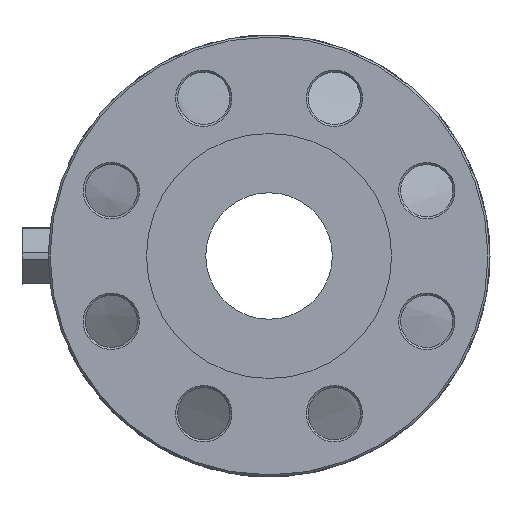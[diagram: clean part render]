
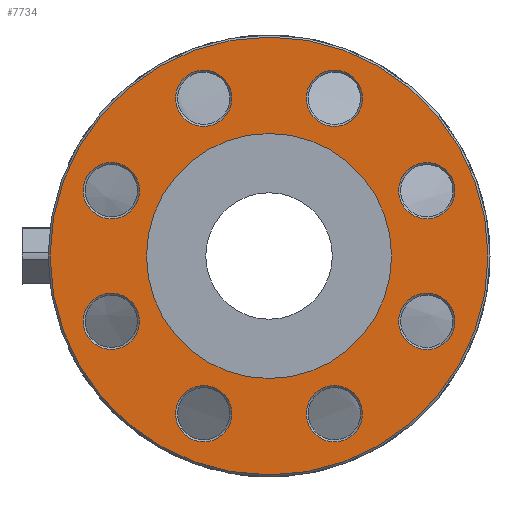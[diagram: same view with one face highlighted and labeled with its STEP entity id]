
A CAD part, left-side view. The second image highlights one B-rep face of the part: STEP entity #7734.
In plain terms, the highlighted planar face has unit normal (-1, 0, 0).
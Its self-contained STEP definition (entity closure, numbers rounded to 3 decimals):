
#7615=CARTESIAN_POINT('',(-114.,-42.428,-88.429));
#7616=VERTEX_POINT('',#7615);
#7617=CARTESIAN_POINT('',(-114.,-32.528,-78.53));
#7618=DIRECTION('',(-1.0,0.0,0.0));
#7619=DIRECTION('',(0.0,0.707,0.707));
#7620=AXIS2_PLACEMENT_3D('',#7617,#7618,#7619);
#7621=CIRCLE('',#7620,14.0);
#7622=EDGE_CURVE('',#7616,#7616,#7621,.T.);
#7627=CARTESIAN_POINT('',(-114.,-85.,0.0));
#7628=DIRECTION('',(-1.0,0.0,0.0));
#7629=DIRECTION('',(0.0,0.0,1.0));
#7630=AXIS2_PLACEMENT_3D('',#7627,#7628,#7629);
#7631=PLANE('',#7630);
#7632=CARTESIAN_POINT('',(-114.,-109.,0.0));
#7633=VERTEX_POINT('',#7632);
#7634=CARTESIAN_POINT('',(-114.,0.0,0.0));
#7635=DIRECTION('',(1.0,0.0,0.0));
#7636=DIRECTION('',(0.0,-1.0,0.0));
#7637=AXIS2_PLACEMENT_3D('',#7634,#7635,#7636);
#7638=CIRCLE('',#7637,109.);
#7639=EDGE_CURVE('',#7633,#7633,#7638,.T.);
#7640=ORIENTED_EDGE('',*,*,#7639,.F.);
#7641=EDGE_LOOP('',(#7640));
#7642=FACE_OUTER_BOUND('',#7641,.T.);
#7643=CARTESIAN_POINT('',(-114.,-92.53,-32.528));
#7644=VERTEX_POINT('',#7643);
#7645=CARTESIAN_POINT('',(-114.,-78.53,-32.528));
#7646=DIRECTION('',(-1.0,0.0,0.0));
#7647=DIRECTION('',(0.0,1.0,0.0));
#7648=AXIS2_PLACEMENT_3D('',#7645,#7646,#7647);
#7649=CIRCLE('',#7648,14.);
#7650=EDGE_CURVE('',#7644,#7644,#7649,.T.);
#7651=ORIENTED_EDGE('',*,*,#7650,.F.);
#7652=EDGE_LOOP('',(#7651));
#7653=FACE_BOUND('',#7652,.T.);
#7654=CARTESIAN_POINT('',(-114.,-32.528,92.53));
#7655=VERTEX_POINT('',#7654);
#7656=CARTESIAN_POINT('',(-114.,-32.528,78.53));
#7657=DIRECTION('',(-1.0,0.0,0.0));
#7658=DIRECTION('',(0.0,0.0,-1.0));
#7659=AXIS2_PLACEMENT_3D('',#7656,#7657,#7658);
#7660=CIRCLE('',#7659,14.);
#7661=EDGE_CURVE('',#7655,#7655,#7660,.T.);
#7662=ORIENTED_EDGE('',*,*,#7661,.F.);
#7663=EDGE_LOOP('',(#7662));
#7664=FACE_BOUND('',#7663,.T.);
#7665=CARTESIAN_POINT('',(-114.,92.53,32.528));
#7666=VERTEX_POINT('',#7665);
#7667=CARTESIAN_POINT('',(-114.,78.53,32.528));
#7668=DIRECTION('',(-1.0,0.0,0.0));
#7669=DIRECTION('',(0.0,-1.0,0.0));
#7670=AXIS2_PLACEMENT_3D('',#7667,#7668,#7669);
#7671=CIRCLE('',#7670,14.);
#7672=EDGE_CURVE('',#7666,#7666,#7671,.T.);
#7673=ORIENTED_EDGE('',*,*,#7672,.F.);
#7674=EDGE_LOOP('',(#7673));
#7675=FACE_BOUND('',#7674,.T.);
#7676=CARTESIAN_POINT('',(-114.,32.528,-92.53));
#7677=VERTEX_POINT('',#7676);
#7678=CARTESIAN_POINT('',(-114.,32.528,-78.53));
#7679=DIRECTION('',(-1.0,0.0,0.0));
#7680=DIRECTION('',(0.0,0.0,1.0));
#7681=AXIS2_PLACEMENT_3D('',#7678,#7679,#7680);
#7682=CIRCLE('',#7681,14.);
#7683=EDGE_CURVE('',#7677,#7677,#7682,.T.);
#7684=ORIENTED_EDGE('',*,*,#7683,.F.);
#7685=EDGE_LOOP('',(#7684));
#7686=FACE_BOUND('',#7685,.T.);
#7687=CARTESIAN_POINT('',(-114.,-61.,0.0));
#7688=VERTEX_POINT('',#7687);
#7689=CARTESIAN_POINT('',(-114.,0.0,0.0));
#7690=DIRECTION('',(1.0,0.0,0.0));
#7691=DIRECTION('',(0.0,-1.0,0.0));
#7692=AXIS2_PLACEMENT_3D('',#7689,#7690,#7691);
#7693=CIRCLE('',#7692,61.);
#7694=EDGE_CURVE('',#7688,#7688,#7693,.T.);
#7695=ORIENTED_EDGE('',*,*,#7694,.T.);
#7696=EDGE_LOOP('',(#7695));
#7697=FACE_BOUND('',#7696,.T.);
#7698=CARTESIAN_POINT('',(-114.,88.429,-42.428));
#7699=VERTEX_POINT('',#7698);
#7700=CARTESIAN_POINT('',(-114.,78.53,-32.528));
#7701=DIRECTION('',(-1.0,0.0,0.0));
#7702=DIRECTION('',(0.0,-0.707,0.707));
#7703=AXIS2_PLACEMENT_3D('',#7700,#7701,#7702);
#7704=CIRCLE('',#7703,14.);
#7705=EDGE_CURVE('',#7699,#7699,#7704,.T.);
#7706=ORIENTED_EDGE('',*,*,#7705,.F.);
#7707=EDGE_LOOP('',(#7706));
#7708=FACE_BOUND('',#7707,.T.);
#7709=CARTESIAN_POINT('',(-114.,42.428,88.429));
#7710=VERTEX_POINT('',#7709);
#7711=CARTESIAN_POINT('',(-114.,32.528,78.53));
#7712=DIRECTION('',(-1.0,0.0,0.0));
#7713=DIRECTION('',(0.0,-0.707,-0.707));
#7714=AXIS2_PLACEMENT_3D('',#7711,#7712,#7713);
#7715=CIRCLE('',#7714,14.0);
#7716=EDGE_CURVE('',#7710,#7710,#7715,.T.);
#7717=ORIENTED_EDGE('',*,*,#7716,.F.);
#7718=EDGE_LOOP('',(#7717));
#7719=FACE_BOUND('',#7718,.T.);
#7720=CARTESIAN_POINT('',(-114.,-88.429,42.428));
#7721=VERTEX_POINT('',#7720);
#7722=CARTESIAN_POINT('',(-114.,-78.53,32.528));
#7723=DIRECTION('',(-1.0,0.0,0.0));
#7724=DIRECTION('',(0.0,0.707,-0.707));
#7725=AXIS2_PLACEMENT_3D('',#7722,#7723,#7724);
#7726=CIRCLE('',#7725,14.0);
#7727=EDGE_CURVE('',#7721,#7721,#7726,.T.);
#7728=ORIENTED_EDGE('',*,*,#7727,.F.);
#7729=EDGE_LOOP('',(#7728));
#7730=FACE_BOUND('',#7729,.T.);
#7731=ORIENTED_EDGE('',*,*,#7622,.F.);
#7732=EDGE_LOOP('',(#7731));
#7733=FACE_BOUND('',#7732,.T.);
#7734=ADVANCED_FACE('',(#7642,#7653,#7664,#7675,#7686,#7697,#7708,#7719,#7730,#7733),#7631,.T.);
